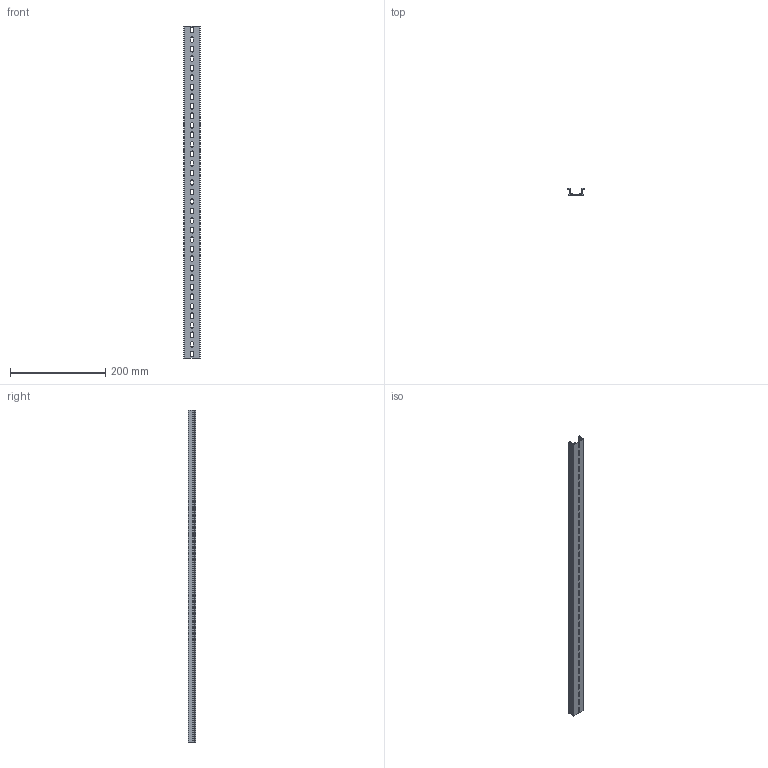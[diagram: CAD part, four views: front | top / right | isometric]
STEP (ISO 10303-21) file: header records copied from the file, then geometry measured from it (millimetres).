
FILE_DESCRIPTION(/* description */ (''),/* implementation_level */ '2;1');
FILE_NAME(/* name */ '22649-(TKB KD-35)HP 3D.stp',/* time_stamp */ '2024-12-05T14:13:54+09:00',/* author */ ('usercadg104'),/* organization */ (''),/* preprocessor_version */ 'ST-DEVELOPER v19.2',/* originating_system */ 'Autodesk Inventor 2023',/* authorisation */ '');
FILE_SCHEMA (('CONFIG_CONTROL_DESIGN'));
Length unit declared in the file: millimetre
Products named in the file (1): TKB KD-3(林)
Bounding box: 35 x 15 x 697 mm (x, y, z)
Volume: 81546 mm3; surface area: 94193.3 mm2
Topology: 1 solids, 1 shells, 180 faces, 534 edges, 356 vertices
Faces by surface type: plane 106, cylinder 74
Entity records: 6229 total; most frequent: CARTESIAN_POINT 1071, ORIENTED_EDGE 1068, DIRECTION 1044, EDGE_CURVE 534, LINE 386, VECTOR 386, VERTEX_POINT 356, AXIS2_PLACEMENT_3D 329
